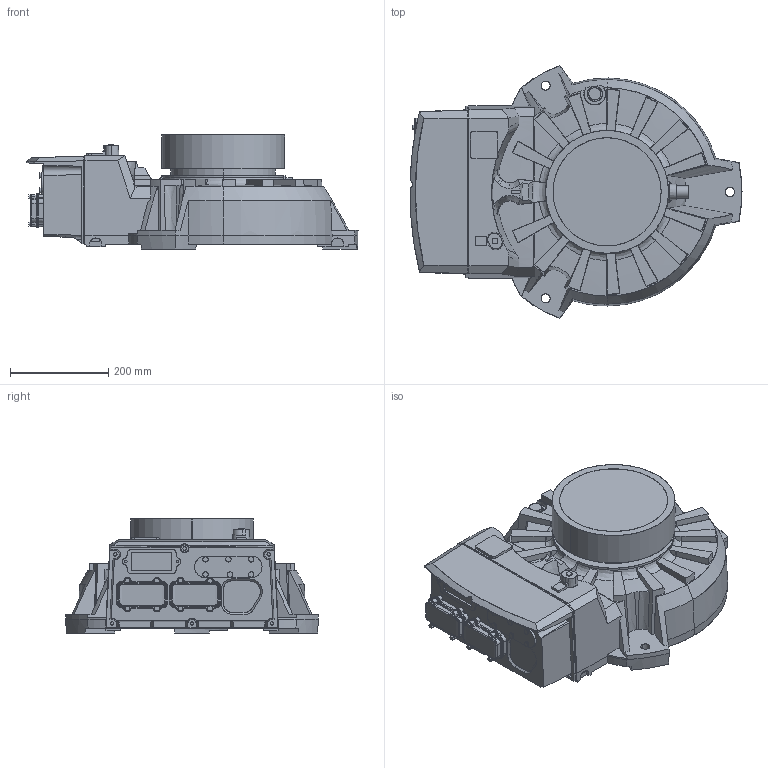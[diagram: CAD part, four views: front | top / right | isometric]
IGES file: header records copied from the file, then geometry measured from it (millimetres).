
Start section: SolidWorks IGES file using analytic representation for surfaces
Global section: file name: C:\Users\CNVIWU6\Desktop\Customer CAD\New model\Base\IRB2600_TYPEC_12kg-165_IRC5_rev00_PARASOLID_j\IRB2600-TYPEC_12kg-165_BASE_CAD_rev01.IGS; native system: SolidWorks 2016; preprocessor: SolidWorks 2016; author: CNVIWU6; date: 180626.092320; units: millimetre
Bounding box: 675.45 x 514.54 x 232.1 mm (x, y, z)
Surface area: 975452.2 mm2 (no closed solid volume)
Topology: 0 solids, 0 shells, 968 faces, 11513 edges, 11511 vertices
Faces by surface type: bspline 576, revolution 392
